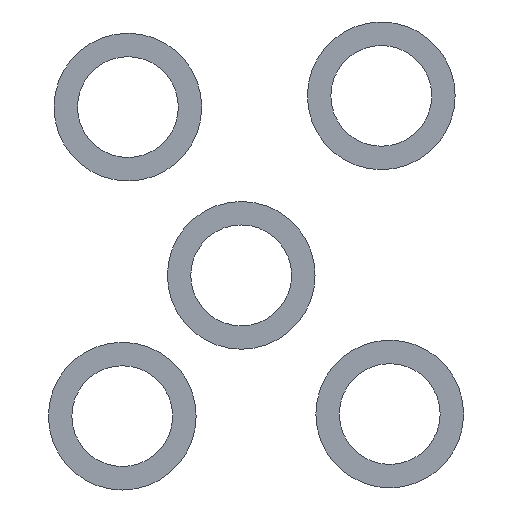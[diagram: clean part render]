
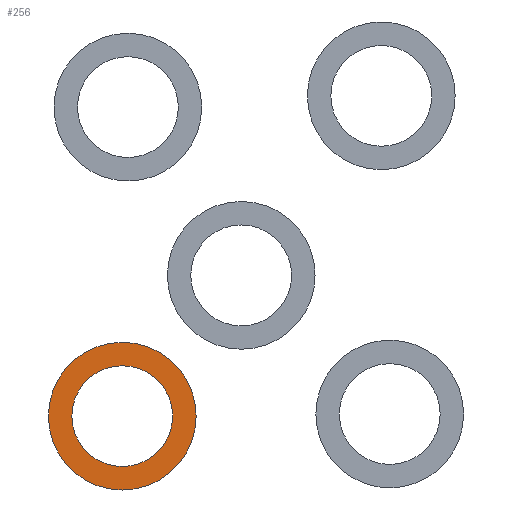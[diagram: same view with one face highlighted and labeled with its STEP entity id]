
A CAD part, front view. The second image highlights one B-rep face of the part: STEP entity #256.
In plain terms, the highlighted planar face has unit normal (0, -1, 0).
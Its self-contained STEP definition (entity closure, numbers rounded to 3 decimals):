
#24=FACE_BOUND('',#68,.T.);
#34=PLANE('',#307);
#46=FACE_OUTER_BOUND('',#67,.T.);
#67=EDGE_LOOP('',(#193));
#68=EDGE_LOOP('',(#194));
#114=CIRCLE('',#302,2.15);
#116=CIRCLE('',#305,3.15);
#134=VERTEX_POINT('',#436);
#136=VERTEX_POINT('',#442);
#155=EDGE_CURVE('',#134,#134,#114,.T.);
#158=EDGE_CURVE('',#136,#136,#116,.T.);
#193=ORIENTED_EDGE('',*,*,#158,.F.);
#194=ORIENTED_EDGE('',*,*,#155,.F.);
#256=ADVANCED_FACE('',(#46,#24),#34,.F.);
#302=AXIS2_PLACEMENT_3D('',#438,#347,#348);
#305=AXIS2_PLACEMENT_3D('',#444,#354,#355);
#307=AXIS2_PLACEMENT_3D('',#446,#358,#359);
#347=DIRECTION('center_axis',(0.,-1.,0.));
#348=DIRECTION('ref_axis',(1.,0.,0.));
#354=DIRECTION('center_axis',(0.,1.,0.));
#355=DIRECTION('ref_axis',(-1.,0.,0.));
#358=DIRECTION('center_axis',(0.,1.,0.));
#359=DIRECTION('ref_axis',(0.,0.,1.));
#436=CARTESIAN_POINT('',(-9.194,0.,-9.316));
#438=CARTESIAN_POINT('Origin',(-7.044,0.,-9.316));
#442=CARTESIAN_POINT('',(-3.894,0.,-9.316));
#444=CARTESIAN_POINT('Origin',(-7.044,0.,-9.316));
#446=CARTESIAN_POINT('Origin',(-7.044,0.,-9.316));
